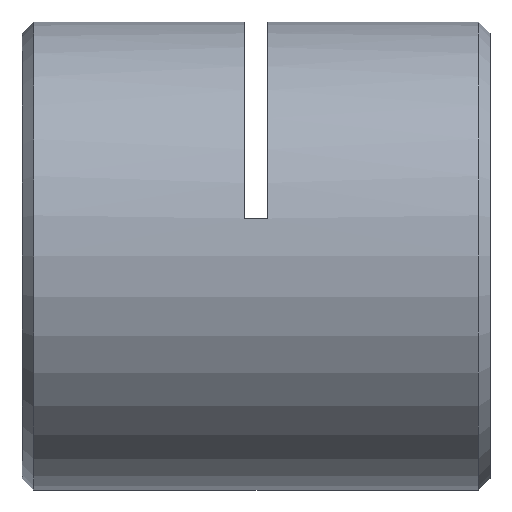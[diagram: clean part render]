
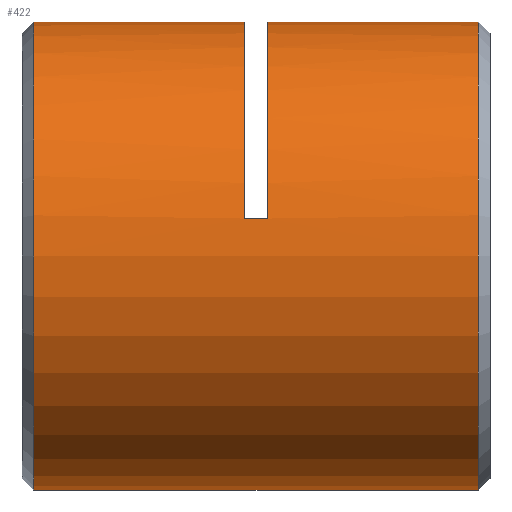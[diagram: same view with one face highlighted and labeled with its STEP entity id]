
A CAD part, left-side view. The second image highlights one B-rep face of the part: STEP entity #422.
In plain terms, the highlighted cylindrical face has radius 8 mm (diameter 16 mm), a partial arc.
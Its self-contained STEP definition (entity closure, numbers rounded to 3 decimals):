
#70 = DIRECTION ( 'NONE',  ( 0., 1., 0. ) ) ;
#130 = ORIENTED_EDGE ( 'NONE', *, *, #687, .F. ) ;
#225 = ORIENTED_EDGE ( 'NONE', *, *, #2322, .T. ) ;
#259 = AXIS2_PLACEMENT_3D ( 'NONE', #514, #3548, #1399 ) ;
#402 = CARTESIAN_POINT ( 'NONE',  ( 0., 0.65, -8. ) ) ;
#422 = ADVANCED_FACE ( 'NONE', ( #2431 ), #1868, .T. ) ;
#428 = AXIS2_PLACEMENT_3D ( 'NONE', #3546, #2387, #2913 ) ;
#453 = CARTESIAN_POINT ( 'NONE',  ( 0., 0.25, 8. ) ) ;
#462 = VECTOR ( 'NONE', #1646, 1000. ) ;
#475 = CARTESIAN_POINT ( 'NONE',  ( 0., 0.25, -8. ) ) ;
#484 = CIRCLE ( 'NONE', #1416, 8. ) ;
#512 = EDGE_CURVE ( 'NONE', #2019, #2541, #1337, .T. ) ;
#514 = CARTESIAN_POINT ( 'NONE',  ( 0., 0.25, 0. ) ) ;
#529 = VECTOR ( 'NONE', #3650, 1000. ) ;
#612 = EDGE_LOOP ( 'NONE', ( #3096, #709, #2522, #130, #3293, #901, #2750, #225 ) ) ;
#687 = EDGE_CURVE ( 'NONE', #2019, #2470, #3457, .T. ) ;
#694 = AXIS2_PLACEMENT_3D ( 'NONE', #2880, #1673, #3792 ) ;
#709 = ORIENTED_EDGE ( 'NONE', *, *, #2539, .T. ) ;
#737 = DIRECTION ( 'NONE',  ( 0., 0., 1. ) ) ;
#771 = VECTOR ( 'NONE', #2614, 1000. ) ;
#784 = CARTESIAN_POINT ( 'NONE',  ( 0., 7.85, 0. ) ) ;
#901 = ORIENTED_EDGE ( 'NONE', *, *, #3712, .T. ) ;
#948 = CARTESIAN_POINT ( 'NONE',  ( 0., 15.85, 8. ) ) ;
#985 = LINE ( 'NONE', #453, #462 ) ;
#1012 = CARTESIAN_POINT ( 'NONE',  ( 0., 0.65, 0. ) ) ;
#1017 = VERTEX_POINT ( 'NONE', #948 ) ;
#1018 = DIRECTION ( 'NONE',  ( 0., 1., 0. ) ) ;
#1110 = CARTESIAN_POINT ( 'NONE',  ( 0., 0.65, 8. ) ) ;
#1119 = VERTEX_POINT ( 'NONE', #2826 ) ;
#1233 = VERTEX_POINT ( 'NONE', #1110 ) ;
#1337 = LINE ( 'NONE', #2734, #529 ) ;
#1399 = DIRECTION ( 'NONE',  ( 0., 0., 1. ) ) ;
#1416 = AXIS2_PLACEMENT_3D ( 'NONE', #1012, #70, #3405 ) ;
#1518 = VERTEX_POINT ( 'NONE', #402 ) ;
#1646 = DIRECTION ( 'NONE',  ( 0., 1., 0. ) ) ;
#1673 = DIRECTION ( 'NONE',  ( 0., -1., 0. ) ) ;
#1679 = CARTESIAN_POINT ( 'NONE',  ( -7.897, 7.85, 1.28 ) ) ;
#1738 = CARTESIAN_POINT ( 'NONE',  ( 0., 15.85, -8. ) ) ;
#1848 = VECTOR ( 'NONE', #3121, 1000. ) ;
#1868 = CYLINDRICAL_SURFACE ( 'NONE', #259, 8. ) ;
#1871 = EDGE_CURVE ( 'NONE', #1233, #2470, #985, .T. ) ;
#1879 = CARTESIAN_POINT ( 'NONE',  ( 0., 0.25, 8. ) ) ;
#2019 = VERTEX_POINT ( 'NONE', #1679 ) ;
#2227 = CARTESIAN_POINT ( 'NONE',  ( -7.897, 8.65, 1.28 ) ) ;
#2318 = EDGE_CURVE ( 'NONE', #1119, #1017, #3059, .T. ) ;
#2322 = EDGE_CURVE ( 'NONE', #1017, #2464, #2644, .T. ) ;
#2387 = DIRECTION ( 'NONE',  ( 0., 1., 0. ) ) ;
#2431 = FACE_OUTER_BOUND ( 'NONE', #612, .T. ) ;
#2464 = VERTEX_POINT ( 'NONE', #1738 ) ;
#2470 = VERTEX_POINT ( 'NONE', #3576 ) ;
#2522 = ORIENTED_EDGE ( 'NONE', *, *, #1871, .T. ) ;
#2539 = EDGE_CURVE ( 'NONE', #1518, #1233, #484, .T. ) ;
#2541 = VERTEX_POINT ( 'NONE', #2227 ) ;
#2614 = DIRECTION ( 'NONE',  ( 0., 1., 0. ) ) ;
#2644 = CIRCLE ( 'NONE', #694, 8. ) ;
#2665 = AXIS2_PLACEMENT_3D ( 'NONE', #784, #1018, #737 ) ;
#2734 = CARTESIAN_POINT ( 'NONE',  ( -7.897, 8.25, 1.28 ) ) ;
#2750 = ORIENTED_EDGE ( 'NONE', *, *, #2318, .T. ) ;
#2826 = CARTESIAN_POINT ( 'NONE',  ( 0., 8.65, 8. ) ) ;
#2880 = CARTESIAN_POINT ( 'NONE',  ( 0., 15.85, 0. ) ) ;
#2913 = DIRECTION ( 'NONE',  ( 0., 0., 1. ) ) ;
#3059 = LINE ( 'NONE', #1879, #1848 ) ;
#3094 = EDGE_CURVE ( 'NONE', #1518, #2464, #3810, .T. ) ;
#3096 = ORIENTED_EDGE ( 'NONE', *, *, #3094, .F. ) ;
#3105 = CIRCLE ( 'NONE', #428, 8. ) ;
#3121 = DIRECTION ( 'NONE',  ( 0., 1., 0. ) ) ;
#3293 = ORIENTED_EDGE ( 'NONE', *, *, #512, .T. ) ;
#3405 = DIRECTION ( 'NONE',  ( 0., 0., 1. ) ) ;
#3457 = CIRCLE ( 'NONE', #2665, 8. ) ;
#3546 = CARTESIAN_POINT ( 'NONE',  ( 0., 8.65, 0. ) ) ;
#3548 = DIRECTION ( 'NONE',  ( 0., 1., 0. ) ) ;
#3576 = CARTESIAN_POINT ( 'NONE',  ( 0., 7.85, 8. ) ) ;
#3650 = DIRECTION ( 'NONE',  ( 0., 1., 0. ) ) ;
#3712 = EDGE_CURVE ( 'NONE', #2541, #1119, #3105, .T. ) ;
#3792 = DIRECTION ( 'NONE',  ( 0., 0., -1. ) ) ;
#3810 = LINE ( 'NONE', #475, #771 ) ;
